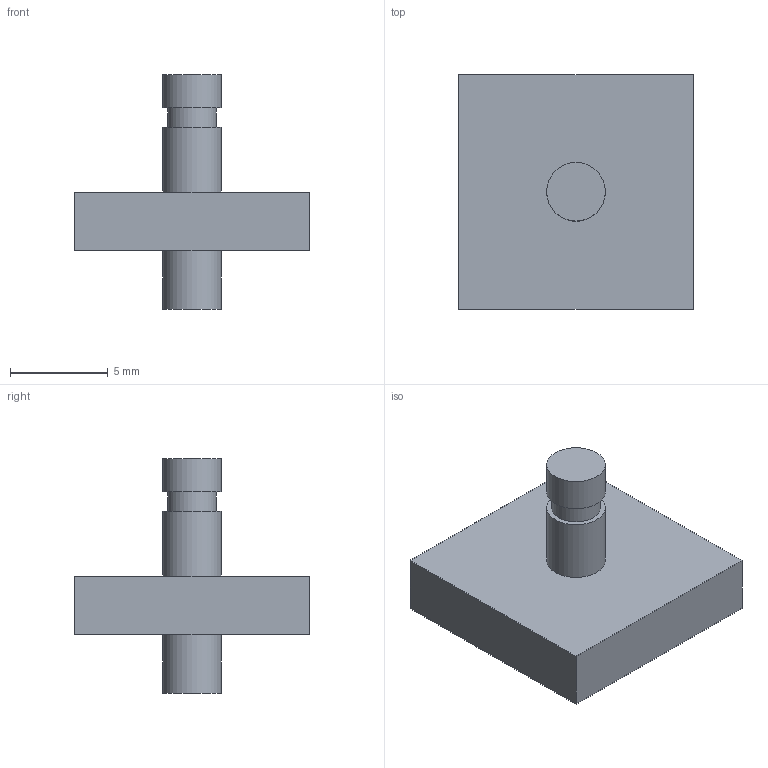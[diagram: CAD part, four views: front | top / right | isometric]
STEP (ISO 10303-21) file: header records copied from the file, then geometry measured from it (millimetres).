
FILE_DESCRIPTION(('Open CASCADE Model'),'2;1');
FILE_NAME('F08-SLIDER','2026-11-15T22:32:29',('Author'),('Open CASCADE') ,'Open CASCADE STEP processor 8.0','build123d','Unknown');
FILE_SCHEMA(('AUTOMOTIVE_DESIGN { 1 0 10303 214 1 1 1 1 }'));
Length unit declared in the file: millimetre
Products named in the file (1): F08-SLIDER
Bounding box: 12 x 12 x 12 mm (x, y, z)
Volume: 493.5 mm3; surface area: 519.6 mm2
Topology: 1 solids, 1 shells, 14 faces, 24 edges, 16 vertices
Faces by surface type: plane 10, cylinder 4
Full cylindrical faces by diameter (mm): 2.5 x1, 3 x3
Entity records: 658 total; most frequent: DIRECTION 110, CARTESIAN_POINT 103, LINE 56, VECTOR 56, ORIENTED_EDGE 48, PCURVE 48, DEFINITIONAL_REPRESENTATION 48, EDGE_CURVE 24
